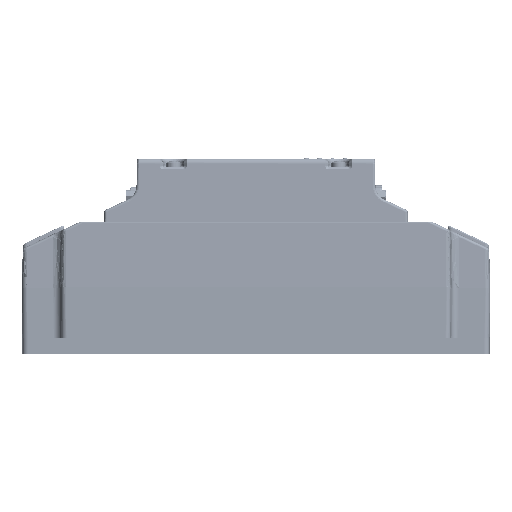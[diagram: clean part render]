
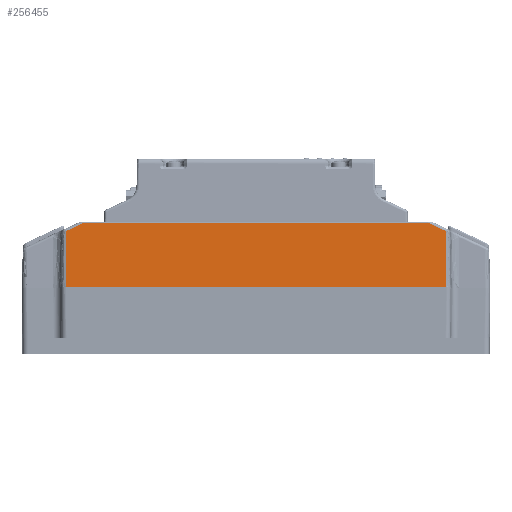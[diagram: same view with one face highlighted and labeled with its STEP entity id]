
A CAD part, top view. The second image highlights one B-rep face of the part: STEP entity #256455.
In plain terms, the highlighted planar face has unit normal (0, 0.018, 1).
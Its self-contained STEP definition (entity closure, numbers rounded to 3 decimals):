
#39 = DIRECTION ( 'NONE',  ( 0., -1., 0.017 ) ) ;
#2394 = CARTESIAN_POINT ( 'NONE',  ( 66.231, 50.455, 70.735 ) ) ;
#5167 = FACE_OUTER_BOUND ( 'NONE', #52628, .T. ) ;
#13434 = EDGE_CURVE ( 'NONE', #57438, #60089, #172672, .T. ) ;
#25698 = LINE ( 'NONE', #219977, #289260 ) ;
#28692 = AXIS2_PLACEMENT_3D ( 'NONE', #339495, #157729, #39 ) ;
#34780 = VECTOR ( 'NONE', #94305, 1000. ) ;
#35742 = DIRECTION ( 'NONE',  ( -0.906, -0.423, 0.007 ) ) ;
#43242 = VECTOR ( 'NONE', #303666, 1000. ) ;
#45358 = EDGE_CURVE ( 'NONE', #60089, #155673, #254576, .T. ) ;
#52628 = EDGE_LOOP ( 'NONE', ( #178981, #267807, #277033, #204665, #130738, #146686 ) ) ;
#57438 = VERTEX_POINT ( 'NONE', #83528 ) ;
#60089 = VERTEX_POINT ( 'NONE', #2394 ) ;
#83528 = CARTESIAN_POINT ( 'NONE',  ( 73.17, 47.219, 70.791 ) ) ;
#83612 = CARTESIAN_POINT ( 'NONE',  ( 73.17, 25.5, 71.17 ) ) ;
#84722 = CARTESIAN_POINT ( 'NONE',  ( -65.598, 50.455, 70.735 ) ) ;
#87279 = LINE ( 'NONE', #104019, #305504 ) ;
#93176 = CARTESIAN_POINT ( 'NONE',  ( 73.17, 25.5, 71.17 ) ) ;
#94305 = DIRECTION ( 'NONE',  ( 0., -1., 0.017 ) ) ;
#104019 = CARTESIAN_POINT ( 'NONE',  ( -73.17, 25.5, 71.17 ) ) ;
#108373 = CARTESIAN_POINT ( 'NONE',  ( -73.17, 47.219, 70.791 ) ) ;
#113252 = CARTESIAN_POINT ( 'NONE',  ( -66.231, 50.455, 70.735 ) ) ;
#130738 = ORIENTED_EDGE ( 'NONE', *, *, #137757, .T. ) ;
#137757 = EDGE_CURVE ( 'NONE', #335712, #143706, #87279, .T. ) ;
#143706 = VERTEX_POINT ( 'NONE', #83612 ) ;
#146686 = ORIENTED_EDGE ( 'NONE', *, *, #324017, .F. ) ;
#155673 = VERTEX_POINT ( 'NONE', #113252 ) ;
#157729 = DIRECTION ( 'NONE',  ( 0., 0.017, 1. ) ) ;
#172672 = LINE ( 'NONE', #175726, #242542 ) ;
#173911 = VERTEX_POINT ( 'NONE', #108373 ) ;
#174901 = LINE ( 'NONE', #93176, #34780 ) ;
#175726 = CARTESIAN_POINT ( 'NONE',  ( -38.705, 99.388, 69.88 ) ) ;
#178981 = ORIENTED_EDGE ( 'NONE', *, *, #13434, .T. ) ;
#183275 = LINE ( 'NONE', #277194, #43242 ) ;
#186372 = EDGE_CURVE ( 'NONE', #173911, #335712, #183275, .T. ) ;
#190778 = CARTESIAN_POINT ( 'NONE',  ( -73.17, 25.5, 71.17 ) ) ;
#204665 = ORIENTED_EDGE ( 'NONE', *, *, #186372, .T. ) ;
#219977 = CARTESIAN_POINT ( 'NONE',  ( -81.491, 43.339, 70.859 ) ) ;
#221306 = EDGE_CURVE ( 'NONE', #155673, #173911, #25698, .T. ) ;
#242542 = VECTOR ( 'NONE', #307905, 1000. ) ;
#254576 = LINE ( 'NONE', #84722, #308093 ) ;
#256455 = ADVANCED_FACE ( 'NONE', ( #5167 ), #315299, .T. ) ;
#263884 = DIRECTION ( 'NONE',  ( 1., 0., 0. ) ) ;
#267807 = ORIENTED_EDGE ( 'NONE', *, *, #45358, .T. ) ;
#268772 = DIRECTION ( 'NONE',  ( -1., 0., 0. ) ) ;
#277033 = ORIENTED_EDGE ( 'NONE', *, *, #221306, .T. ) ;
#277194 = CARTESIAN_POINT ( 'NONE',  ( -73.17, 25.5, 71.17 ) ) ;
#289260 = VECTOR ( 'NONE', #35742, 1000. ) ;
#303666 = DIRECTION ( 'NONE',  ( 0., -1., 0.017 ) ) ;
#305504 = VECTOR ( 'NONE', #263884, 1000. ) ;
#307905 = DIRECTION ( 'NONE',  ( -0.906, 0.423, -0.007 ) ) ;
#308093 = VECTOR ( 'NONE', #268772, 1000. ) ;
#315299 = PLANE ( 'NONE',  #28692 ) ;
#324017 = EDGE_CURVE ( 'NONE', #57438, #143706, #174901, .T. ) ;
#335712 = VERTEX_POINT ( 'NONE', #190778 ) ;
#339495 = CARTESIAN_POINT ( 'NONE',  ( -73.17, 25.5, 71.17 ) ) ;
